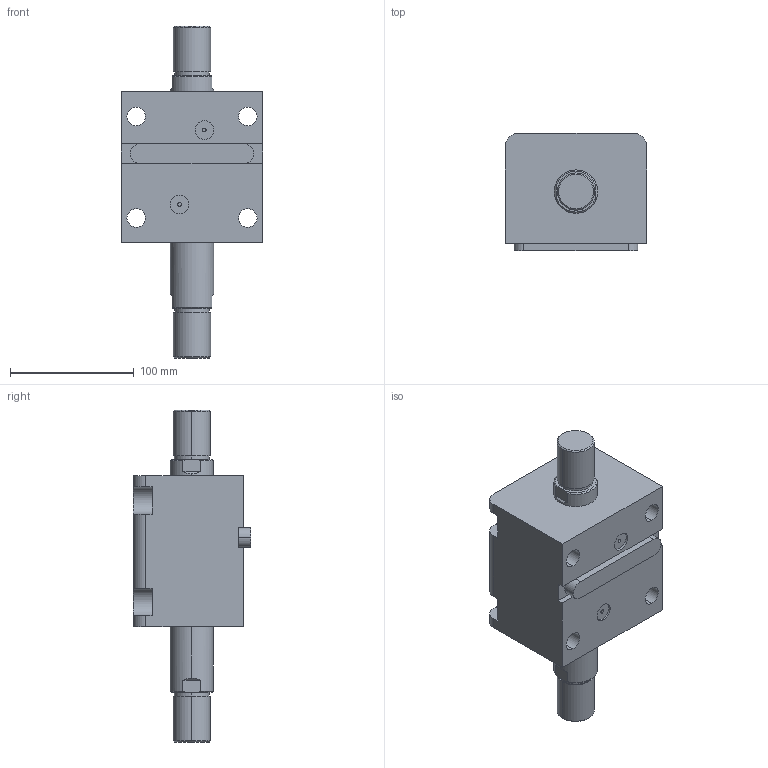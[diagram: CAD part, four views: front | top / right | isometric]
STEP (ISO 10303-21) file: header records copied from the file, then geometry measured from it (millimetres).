
FILE_DESCRIPTION (( 'STEP AP203' ), '1' );
FILE_NAME ('HTB-LWM63-40W.STEP', '2020-12-25T03:46:05', ( '微软用户' ), ( '微软中国' ), 'SwSTEP 2.0', 'SolidWorks 2012', '' );
FILE_SCHEMA (( 'CONFIG_CONTROL_DESIGN' ));
Length unit declared in the file: millimetre
Products named in the file (4): HTB-LWM63-40掛极; HTB-LWM63-40W活塞杆; HTB-LWM63-瑩; HTB-LWM63-40W
Assembly tree (3 placements, depth 2):
  HTB-LWM63-40W
    HTB-LWM63-40掛极
    HTB-LWM63-40W活塞杆
    HTB-LWM63-瑩
Bounding box: 114 x 94.5 x 268 mm (x, y, z)
Volume: 1193786 mm3; surface area: 147217.9 mm2
Topology: 3 solids, 3 shells, 113 faces, 273 edges, 178 vertices
Faces by surface type: cylinder 49, plane 48, torus 8, cone 8
Entity records: 3783 total; most frequent: CARTESIAN_POINT 626, DIRECTION 617, ORIENTED_EDGE 546, EDGE_CURVE 273, AXIS2_PLACEMENT_3D 241, VERTEX_POINT 178, EDGE_LOOP 135, LINE 135
